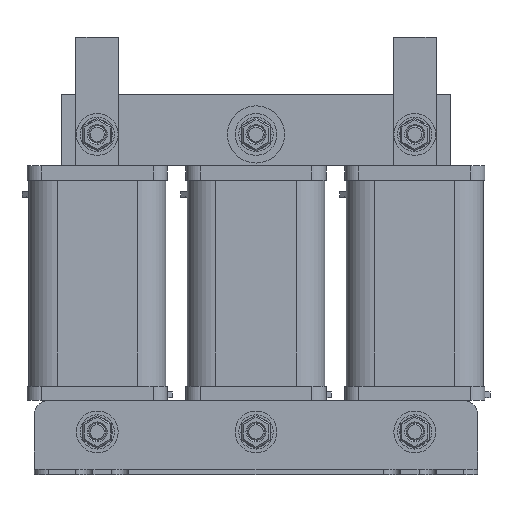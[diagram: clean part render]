
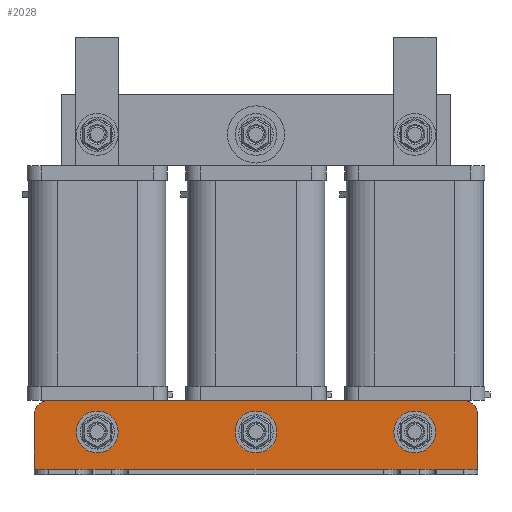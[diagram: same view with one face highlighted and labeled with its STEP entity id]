
A CAD part, front view. The second image highlights one B-rep face of the part: STEP entity #2028.
In plain terms, the highlighted planar face has unit normal (0, -1, 0) as drawn and (0, 1, 0) by its records, which use the part's own axes.
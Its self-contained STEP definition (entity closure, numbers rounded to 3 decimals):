
#2028=ADVANCED_FACE('',(#2273,#2275,#2277,#2279),#2281,.T.);
#2273=FACE_BOUND('',#2274,.T.);
#2274=EDGE_LOOP('',(#3557,#3558,#3559,#3560,#3561,#3562));
#2275=FACE_BOUND('',#2276,.T.);
#2276=EDGE_LOOP('',(#3563));
#2277=FACE_BOUND('',#2278,.T.);
#2278=EDGE_LOOP('',(#3564));
#2279=FACE_BOUND('',#2280,.T.);
#2280=EDGE_LOOP('',(#3565));
#2281=PLANE('',#2282);
#2282=AXIS2_PLACEMENT_3D('',#2283,#2284,#2285);
#2283=CARTESIAN_POINT('',(77.5,-10.5,2.));
#2284=DIRECTION('',(0.,1.,-0.));
#2285=DIRECTION('',(-1.,0.,0.));
#3557=ORIENTED_EDGE('',*,*,#4325,.F.);
#3558=ORIENTED_EDGE('',*,*,#4326,.F.);
#3559=ORIENTED_EDGE('',*,*,#4327,.T.);
#3560=ORIENTED_EDGE('',*,*,#4328,.T.);
#3561=ORIENTED_EDGE('',*,*,#4329,.F.);
#3562=ORIENTED_EDGE('',*,*,#4330,.F.);
#3563=ORIENTED_EDGE('',*,*,#4331,.T.);
#3564=ORIENTED_EDGE('',*,*,#4332,.T.);
#3565=ORIENTED_EDGE('',*,*,#4333,.T.);
#4325=EDGE_CURVE('',#4732,#4733,#4734,.F.);
#4326=EDGE_CURVE('',#4735,#4732,#4736,.T.);
#4327=EDGE_CURVE('',#4735,#4737,#4738,.T.);
#4328=EDGE_CURVE('',#4737,#4739,#4740,.T.);
#4329=EDGE_CURVE('',#4741,#4739,#4742,.F.);
#4330=EDGE_CURVE('',#4733,#4741,#4743,.T.);
#4331=EDGE_CURVE('',#4744,#4744,#4745,.F.);
#4332=EDGE_CURVE('',#4746,#4746,#4747,.F.);
#4333=EDGE_CURVE('',#4748,#4748,#4749,.F.);
#4732=VERTEX_POINT('',#5436);
#4733=VERTEX_POINT('',#5437);
#4734=CIRCLE('',#5438,5.);
#4735=VERTEX_POINT('',#5442);
#4736=LINE('',#5443,#5444);
#4737=VERTEX_POINT('',#5446);
#4738=LINE('',#5447,#5448);
#4739=VERTEX_POINT('',#5450);
#4740=LINE('',#5451,#5452);
#4741=VERTEX_POINT('',#5454);
#4742=CIRCLE('',#5455,5.);
#4743=LINE('',#5459,#5460);
#4744=VERTEX_POINT('',#5462);
#4745=CIRCLE('',#5463,3.);
#4746=VERTEX_POINT('',#5467);
#4747=CIRCLE('',#5468,3.);
#4748=VERTEX_POINT('',#5472);
#4749=CIRCLE('',#5473,3.);
#5436=CARTESIAN_POINT('',(77.5,-10.5,21.));
#5437=CARTESIAN_POINT('',(72.5,-10.5,26.));
#5438=AXIS2_PLACEMENT_3D('',#5439,#5440,#5441);
#5439=CARTESIAN_POINT('',(72.5,-10.5,21.));
#5440=DIRECTION('',(0.,1.,-0.));
#5441=DIRECTION('',(0.,0.,1.));
#5442=CARTESIAN_POINT('',(77.5,-10.5,2.));
#5443=CARTESIAN_POINT('',(77.5,-10.5,2.));
#5444=VECTOR('',#5445,1.);
#5445=DIRECTION('',(0.,0.,1.));
#5446=CARTESIAN_POINT('',(-77.5,-10.5,2.));
#5447=CARTESIAN_POINT('',(77.5,-10.5,2.));
#5448=VECTOR('',#5449,1.);
#5449=DIRECTION('',(-1.,0.,0.));
#5450=CARTESIAN_POINT('',(-77.5,-10.5,21.));
#5451=CARTESIAN_POINT('',(-77.5,-10.5,2.));
#5452=VECTOR('',#5453,1.);
#5453=DIRECTION('',(0.,0.,1.));
#5454=CARTESIAN_POINT('',(-72.5,-10.5,26.));
#5455=AXIS2_PLACEMENT_3D('',#5456,#5457,#5458);
#5456=CARTESIAN_POINT('',(-72.5,-10.5,21.));
#5457=DIRECTION('',(0.,1.,-0.));
#5458=DIRECTION('',(-1.,0.,0.));
#5459=CARTESIAN_POINT('',(72.5,-10.5,26.));
#5460=VECTOR('',#5461,1.);
#5461=DIRECTION('',(-1.,0.,0.));
#5462=CARTESIAN_POINT('',(52.5,-10.5,15.));
#5463=AXIS2_PLACEMENT_3D('',#5464,#5465,#5466);
#5464=CARTESIAN_POINT('',(55.5,-10.5,15.));
#5465=DIRECTION('',(0.,1.,-0.));
#5466=DIRECTION('',(-1.,0.,0.));
#5467=CARTESIAN_POINT('',(-3.,-10.5,15.));
#5468=AXIS2_PLACEMENT_3D('',#5469,#5470,#5471);
#5469=CARTESIAN_POINT('',(0.,-10.5,15.));
#5470=DIRECTION('',(0.,1.,-0.));
#5471=DIRECTION('',(-1.,0.,0.));
#5472=CARTESIAN_POINT('',(-58.5,-10.5,15.));
#5473=AXIS2_PLACEMENT_3D('',#5474,#5475,#5476);
#5474=CARTESIAN_POINT('',(-55.5,-10.5,15.));
#5475=DIRECTION('',(0.,1.,-0.));
#5476=DIRECTION('',(-1.,0.,0.));
